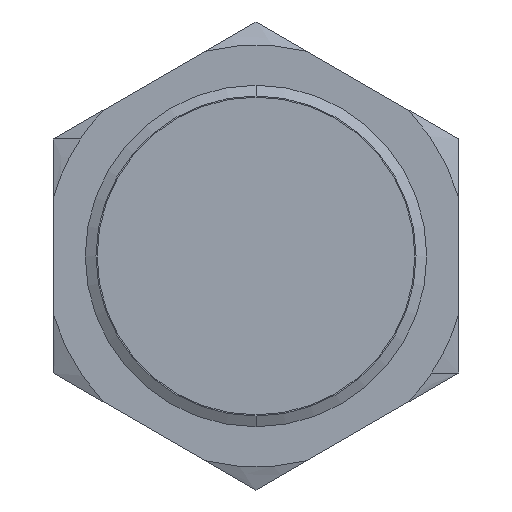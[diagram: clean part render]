
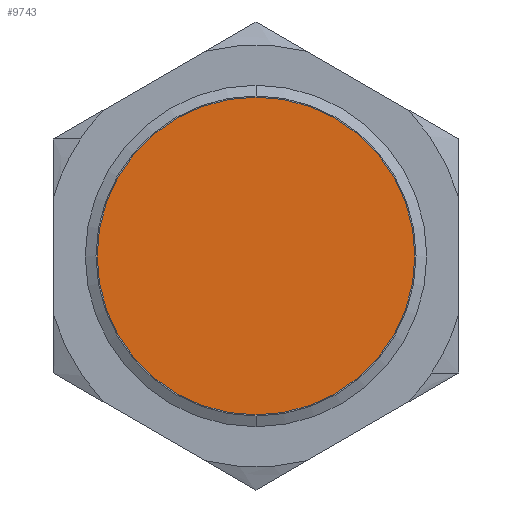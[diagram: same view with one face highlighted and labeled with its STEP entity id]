
A CAD part, left-side view. The second image highlights one B-rep face of the part: STEP entity #9743.
In plain terms, the highlighted planar face has unit normal (-1, 0, 0).
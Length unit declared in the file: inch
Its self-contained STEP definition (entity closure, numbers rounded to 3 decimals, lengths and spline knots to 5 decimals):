
#1737 = FACE_OUTER_BOUND ( 'NONE', #8155, .T. ) ;
#1738 = PLANE ( 'NONE',  #1739 ) ;
#1739 = AXIS2_PLACEMENT_3D ( 'NONE', #1740, #1741, #1750 ) ;
#1740 = CARTESIAN_POINT ( 'NONE',  ( -0.118, 0., -0.591 ) ) ;
#1741 = DIRECTION ( 'NONE',  ( 1., 0., 0. ) ) ;
#1750 = DIRECTION ( 'NONE',  ( 0., 0., -1. ) ) ;
#2588 = CIRCLE ( 'NONE', #2589, 0.55 ) ;
#2589 = AXIS2_PLACEMENT_3D ( 'NONE', #2590, #2591, #2592 ) ;
#2590 = CARTESIAN_POINT ( 'NONE',  ( -0.118, 0., -0.591 ) ) ;
#2591 = DIRECTION ( 'NONE',  ( 1., 0., 0. ) ) ;
#2592 = DIRECTION ( 'NONE',  ( 0., 0., -1. ) ) ;
#2945 = CARTESIAN_POINT ( 'NONE',  ( -0.118, 0., -0.041 ) ) ;
#3125 = CARTESIAN_POINT ( 'NONE',  ( -0.118, 0., -1.141 ) ) ;
#4858 = EDGE_CURVE ( 'NONE', #7792, #7742, #11458, .T. ) ;
#7652 = EDGE_CURVE ( 'NONE', #7742, #7792, #2588, .T. ) ;
#7742 = VERTEX_POINT ( 'NONE', #2945 ) ;
#7792 = VERTEX_POINT ( 'NONE', #3125 ) ;
#8027 = ORIENTED_EDGE ( 'NONE', *, *, #7652, .F. ) ;
#8155 = EDGE_LOOP ( 'NONE', ( #10553, #8027 ) ) ;
#9743 = ADVANCED_FACE ( 'NONE', ( #1737 ), #1738, .F. ) ;
#10553 = ORIENTED_EDGE ( 'NONE', *, *, #4858, .F. ) ;
#11458 = CIRCLE ( 'NONE', #11459, 0.55 ) ;
#11459 = AXIS2_PLACEMENT_3D ( 'NONE', #11460, #11461, #11462 ) ;
#11460 = CARTESIAN_POINT ( 'NONE',  ( -0.118, 0., -0.591 ) ) ;
#11461 = DIRECTION ( 'NONE',  ( 1., 0., 0. ) ) ;
#11462 = DIRECTION ( 'NONE',  ( 0., 0., -1. ) ) ;
